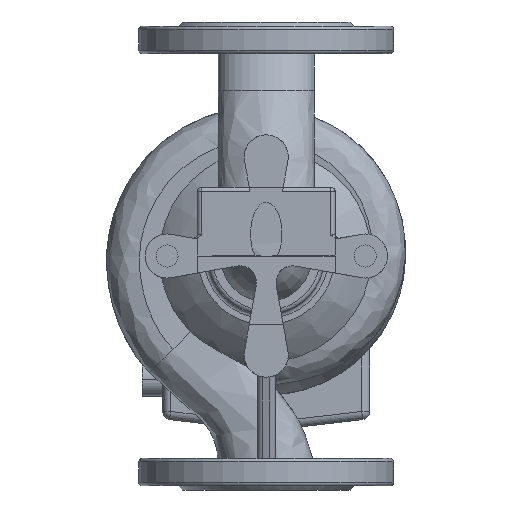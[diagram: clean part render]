
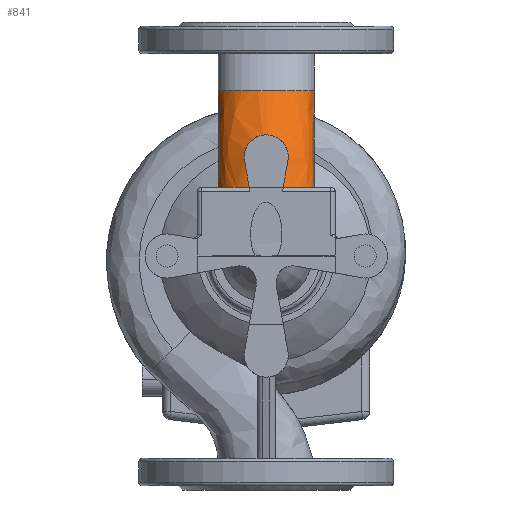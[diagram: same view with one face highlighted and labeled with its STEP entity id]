
A CAD part, front view. The second image highlights one B-rep face of the part: STEP entity #841.
In plain terms, the highlighted free-form (B-spline) face has degree [3, 3] with [7, 4] control points.
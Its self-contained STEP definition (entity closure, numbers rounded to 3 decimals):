
#145=(
BOUNDED_SURFACE()
B_SPLINE_SURFACE(3,3,((#22932,#22933,#22934,#22935),(#22936,#22937,#22938,
#22939),(#22940,#22941,#22942,#22943),(#22944,#22945,#22946,#22947),(#22948,
#22949,#22950,#22951),(#22952,#22953,#22954,#22955),(#22956,#22957,#22958,
#22959)),.UNSPECIFIED.,.T.,.F.,.F.)
B_SPLINE_SURFACE_WITH_KNOTS((1,3,3,3,1),(4,4),(-0.5,0.,0.5,1.,1.5),(0.,
1.),.UNSPECIFIED.)
GEOMETRIC_REPRESENTATION_ITEM()
RATIONAL_B_SPLINE_SURFACE(((1.,0.949,0.949,1.),
(0.333,0.316,0.316,0.333),
(0.333,0.316,0.316,0.333),
(1.,0.949,0.949,1.),(0.333,0.316,
0.316,0.333),(0.333,0.316,
0.316,0.333),(1.,0.949,0.949,
1.)))
REPRESENTATION_ITEM('')
SURFACE()
);
#176=(
BOUNDED_CURVE()
B_SPLINE_CURVE(3,(#22870,#22871,#22872,#22873),.UNSPECIFIED.,.F.,.F.)
B_SPLINE_CURVE_WITH_KNOTS((4,4),(0.,1.),.UNSPECIFIED.)
CURVE()
GEOMETRIC_REPRESENTATION_ITEM()
RATIONAL_B_SPLINE_CURVE((0.963,0.965,0.978,
1.))
REPRESENTATION_ITEM('')
);
#177=(
BOUNDED_CURVE()
B_SPLINE_CURVE(3,(#22877,#22878,#22879,#22880),.UNSPECIFIED.,.F.,.F.)
B_SPLINE_CURVE_WITH_KNOTS((4,4),(0.,1.),.UNSPECIFIED.)
CURVE()
GEOMETRIC_REPRESENTATION_ITEM()
RATIONAL_B_SPLINE_CURVE((0.963,0.965,0.978,
1.))
REPRESENTATION_ITEM('')
);
#841=ADVANCED_FACE('',(#2185),#145,.F.);
#2185=FACE_OUTER_BOUND('',#3008,.T.);
#3008=EDGE_LOOP('',(#6633,#6634,#6635,#6636,#6637,#6638,#6639,#6640,#6641,
#6642));
#4035=B_SPLINE_CURVE_WITH_KNOTS('',3,(#22884,#22885,#22886,#22887,#22888,
#22889,#22890,#22891),.UNSPECIFIED.,.F.,.F.,(4,2,2,4),(0.,0.5,0.75,1.),
 .UNSPECIFIED.);
#4036=B_SPLINE_CURVE_WITH_KNOTS('',3,(#22893,#22894,#22895,#22896),
 .UNSPECIFIED.,.F.,.F.,(4,4),(0.,1.),.UNSPECIFIED.);
#4037=B_SPLINE_CURVE_WITH_KNOTS('',3,(#22898,#22899,#22900,#22901,#22902,
#22903,#22904,#22905,#22906,#22907,#22908,#22909,#22910,#22911,#22912,#22913,
#22914,#22915),.UNSPECIFIED.,.F.,.F.,(4,2,2,2,2,2,2,2,4),(0.,0.125,0.25,
0.375,0.5,0.625,0.75,0.875,1.),.UNSPECIFIED.);
#4038=B_SPLINE_CURVE_WITH_KNOTS('',3,(#22917,#22918,#22919,#22920),
 .UNSPECIFIED.,.F.,.F.,(4,4),(0.,1.),.UNSPECIFIED.);
#4039=B_SPLINE_CURVE_WITH_KNOTS('',3,(#22922,#22923,#22924,#22925,#22926,
#22927,#22928,#22929,#22930,#22931),.UNSPECIFIED.,.F.,.F.,(4,2,2,2,4),(0.,
0.25,0.5,0.75,1.),.UNSPECIFIED.);
#6633=ORIENTED_EDGE('',*,*,#12731,.T.);
#6634=ORIENTED_EDGE('',*,*,#12732,.T.);
#6635=ORIENTED_EDGE('',*,*,#12733,.T.);
#6636=ORIENTED_EDGE('',*,*,#12734,.F.);
#6637=ORIENTED_EDGE('',*,*,#12735,.F.);
#6638=ORIENTED_EDGE('',*,*,#12736,.T.);
#6639=ORIENTED_EDGE('',*,*,#12737,.T.);
#6640=ORIENTED_EDGE('',*,*,#12738,.T.);
#6641=ORIENTED_EDGE('',*,*,#12739,.T.);
#6642=ORIENTED_EDGE('',*,*,#12740,.T.);
#11216=VERTEX_POINT('',#22868);
#11217=VERTEX_POINT('',#22869);
#11218=VERTEX_POINT('',#22874);
#11219=VERTEX_POINT('',#22876);
#11220=VERTEX_POINT('',#22881);
#11221=VERTEX_POINT('',#22883);
#11222=VERTEX_POINT('',#22892);
#11223=VERTEX_POINT('',#22897);
#11224=VERTEX_POINT('',#22916);
#11225=VERTEX_POINT('',#22921);
#12731=EDGE_CURVE('',#11216,#11217,#14945,.T.);
#12732=EDGE_CURVE('',#11217,#11218,#176,.T.);
#12733=EDGE_CURVE('',#11218,#11219,#14946,.T.);
#12734=EDGE_CURVE('',#11220,#11219,#177,.T.);
#12735=EDGE_CURVE('',#11221,#11220,#14947,.T.);
#12736=EDGE_CURVE('',#11221,#11222,#4035,.T.);
#12737=EDGE_CURVE('',#11222,#11223,#4036,.T.);
#12738=EDGE_CURVE('',#11223,#11224,#4037,.T.);
#12739=EDGE_CURVE('',#11224,#11225,#4038,.T.);
#12740=EDGE_CURVE('',#11225,#11216,#4039,.T.);
#14945=CIRCLE('',#15893,147.267);
#14946=CIRCLE('',#15894,35.);
#14947=CIRCLE('',#15895,147.267);
#15893=AXIS2_PLACEMENT_3D('',#22867,#17849,#17850);
#15894=AXIS2_PLACEMENT_3D('',#22875,#17851,#17852);
#15895=AXIS2_PLACEMENT_3D('',#22882,#17853,#17854);
#17849=DIRECTION('',(-1.,0.,0.));
#17850=DIRECTION('',(0.,0.,1.));
#17851=DIRECTION('',(0.,0.,-1.));
#17852=DIRECTION('',(-1.,0.,0.));
#17853=DIRECTION('',(-1.,0.,0.));
#17854=DIRECTION('',(0.,0.,1.));
#22867=CARTESIAN_POINT('',(35.,77.267,16.));
#22868=CARTESIAN_POINT('',(35.,-66.021,50.));
#22869=CARTESIAN_POINT('',(35.,-55.844,79.));
#22870=CARTESIAN_POINT('',(35.,-55.844,79.));
#22871=CARTESIAN_POINT('',(35.,-48.552,94.408));
#22872=CARTESIAN_POINT('',(35.,-38.766,108.234));
#22873=CARTESIAN_POINT('',(35.,-26.866,120.134));
#22874=CARTESIAN_POINT('',(35.,-26.866,120.134));
#22875=CARTESIAN_POINT('',(0.,-26.866,120.134));
#22876=CARTESIAN_POINT('',(-35.,-26.866,120.134));
#22877=CARTESIAN_POINT('',(-35.,-55.844,79.));
#22878=CARTESIAN_POINT('',(-35.,-48.552,94.408));
#22879=CARTESIAN_POINT('',(-35.,-38.766,108.234));
#22880=CARTESIAN_POINT('',(-35.,-26.866,120.134));
#22881=CARTESIAN_POINT('',(-35.,-55.844,79.));
#22882=CARTESIAN_POINT('',(-35.,77.267,16.));
#22883=CARTESIAN_POINT('',(-35.,-66.021,50.));
#22884=CARTESIAN_POINT('',(-35.,-66.021,50.));
#22885=CARTESIAN_POINT('',(-35.,-72.133,50.));
#22886=CARTESIAN_POINT('',(-31.965,-77.873,50.));
#22887=CARTESIAN_POINT('',(-25.679,-84.322,50.));
#22888=CARTESIAN_POINT('',(-23.248,-86.181,50.));
#22889=CARTESIAN_POINT('',(-18.049,-89.23,50.));
#22890=CARTESIAN_POINT('',(-15.27,-90.433,50.));
#22891=CARTESIAN_POINT('',(-12.368,-91.323,50.));
#22892=CARTESIAN_POINT('',(-12.368,-91.323,50.));
#22893=CARTESIAN_POINT('',(-12.368,-91.323,50.));
#22894=CARTESIAN_POINT('',(-13.521,-89.65,56.542));
#22895=CARTESIAN_POINT('',(-14.651,-87.553,62.949));
#22896=CARTESIAN_POINT('',(-15.757,-85.031,69.222));
#22897=CARTESIAN_POINT('',(-15.757,-85.031,69.222));
#22898=CARTESIAN_POINT('',(-15.757,-85.031,69.222));
#22899=CARTESIAN_POINT('',(-16.143,-84.151,71.409));
#22900=CARTESIAN_POINT('',(-16.074,-83.382,73.691));
#22901=CARTESIAN_POINT('',(-14.957,-82.189,78.126));
#22902=CARTESIAN_POINT('',(-13.893,-81.769,80.275));
#22903=CARTESIAN_POINT('',(-10.939,-81.222,83.909));
#22904=CARTESIAN_POINT('',(-9.036,-81.084,85.416));
#22905=CARTESIAN_POINT('',(-4.751,-80.926,87.462));
#22906=CARTESIAN_POINT('',(-2.381,-80.904,87.999));
#22907=CARTESIAN_POINT('',(2.361,-80.903,88.001));
#22908=CARTESIAN_POINT('',(4.733,-80.926,87.465));
#22909=CARTESIAN_POINT('',(8.991,-81.081,85.443));
#22910=CARTESIAN_POINT('',(10.902,-81.218,83.946));
#22911=CARTESIAN_POINT('',(13.883,-81.765,80.295));
#22912=CARTESIAN_POINT('',(14.948,-82.184,78.15));
#22913=CARTESIAN_POINT('',(16.075,-83.38,73.695));
#22914=CARTESIAN_POINT('',(16.143,-84.151,71.41));
#22915=CARTESIAN_POINT('',(15.757,-85.031,69.222));
#22916=CARTESIAN_POINT('',(15.757,-85.031,69.222));
#22917=CARTESIAN_POINT('',(15.757,-85.031,69.222));
#22918=CARTESIAN_POINT('',(14.651,-87.553,62.949));
#22919=CARTESIAN_POINT('',(13.521,-89.65,56.542));
#22920=CARTESIAN_POINT('',(12.368,-91.323,50.));
#22921=CARTESIAN_POINT('',(12.368,-91.323,50.));
#22922=CARTESIAN_POINT('',(12.368,-91.323,50.));
#22923=CARTESIAN_POINT('',(15.272,-90.433,50.));
#22924=CARTESIAN_POINT('',(18.025,-89.24,50.));
#22925=CARTESIAN_POINT('',(23.205,-86.21,50.));
#22926=CARTESIAN_POINT('',(25.652,-84.345,50.));
#22927=CARTESIAN_POINT('',(29.854,-80.042,50.));
#22928=CARTESIAN_POINT('',(31.669,-77.541,50.));
#22929=CARTESIAN_POINT('',(34.231,-72.088,50.));
#22930=CARTESIAN_POINT('',(35.,-69.081,50.));
#22931=CARTESIAN_POINT('',(35.,-66.021,50.));
#22932=CARTESIAN_POINT('',(-35.,-70.,16.));
#22933=CARTESIAN_POINT('',(-35.,-70.,55.58));
#22934=CARTESIAN_POINT('',(-35.,-54.854,92.146));
#22935=CARTESIAN_POINT('',(-35.,-26.866,120.134));
#22936=CARTESIAN_POINT('',(-35.,-20.503,65.497));
#22937=CARTESIAN_POINT('',(-35.,-7.2,91.774));
#22938=CARTESIAN_POINT('',(-35.,15.146,110.96));
#22939=CARTESIAN_POINT('',(-35.,43.134,120.134));
#22940=CARTESIAN_POINT('',(35.,-20.503,65.497));
#22941=CARTESIAN_POINT('',(35.,-7.2,91.774));
#22942=CARTESIAN_POINT('',(35.,15.146,110.96));
#22943=CARTESIAN_POINT('',(35.,43.134,120.134));
#22944=CARTESIAN_POINT('',(35.,-70.,16.));
#22945=CARTESIAN_POINT('',(35.,-70.,55.58));
#22946=CARTESIAN_POINT('',(35.,-54.854,92.146));
#22947=CARTESIAN_POINT('',(35.,-26.866,120.134));
#22948=CARTESIAN_POINT('',(35.,-119.497,-33.497));
#22949=CARTESIAN_POINT('',(35.,-132.8,19.385));
#22950=CARTESIAN_POINT('',(35.,-124.854,73.333));
#22951=CARTESIAN_POINT('',(35.,-96.866,120.134));
#22952=CARTESIAN_POINT('',(-35.,-119.497,-33.497));
#22953=CARTESIAN_POINT('',(-35.,-132.8,19.385));
#22954=CARTESIAN_POINT('',(-35.,-124.854,73.333));
#22955=CARTESIAN_POINT('',(-35.,-96.866,120.134));
#22956=CARTESIAN_POINT('',(-35.,-70.,16.));
#22957=CARTESIAN_POINT('',(-35.,-70.,55.58));
#22958=CARTESIAN_POINT('',(-35.,-54.854,92.146));
#22959=CARTESIAN_POINT('',(-35.,-26.866,120.134));
